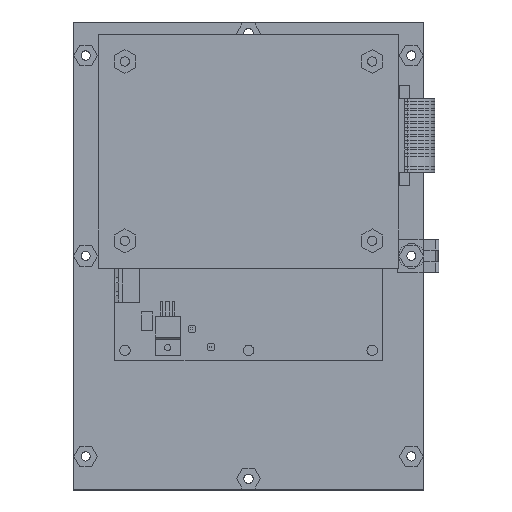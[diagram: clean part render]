
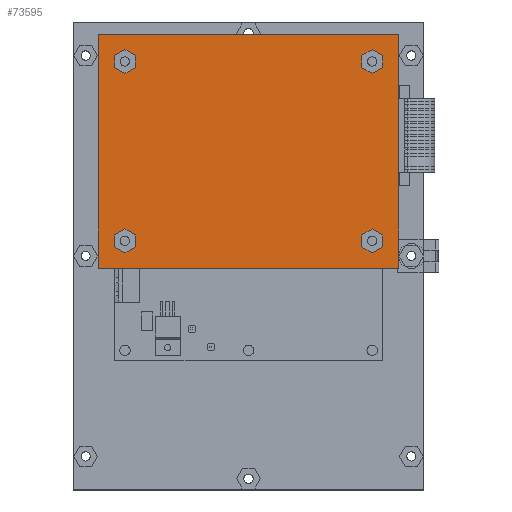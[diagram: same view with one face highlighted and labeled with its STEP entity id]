
A CAD part, top view. The second image highlights one B-rep face of the part: STEP entity #73595.
In plain terms, the highlighted planar face has unit normal (0, 0, 1).
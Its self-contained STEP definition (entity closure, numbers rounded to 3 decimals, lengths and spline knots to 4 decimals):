
#43=FACE_BOUND('',#7721,.T.);
#44=FACE_BOUND('',#7722,.T.);
#45=FACE_BOUND('',#7723,.T.);
#46=FACE_BOUND('',#7724,.T.);
#958=CIRCLE('',#78319,0.069);
#960=CIRCLE('',#78322,0.069);
#962=CIRCLE('',#78325,0.069);
#964=CIRCLE('',#78328,0.069);
#3779=FACE_OUTER_BOUND('',#7720,.T.);
#7720=EDGE_LOOP('',(#55278,#55279,#55280,#55281));
#7721=EDGE_LOOP('',(#55282));
#7722=EDGE_LOOP('',(#55283));
#7723=EDGE_LOOP('',(#55284));
#7724=EDGE_LOOP('',(#55285));
#13750=LINE('',#108937,#23322);
#13753=LINE('',#108943,#23325);
#13756=LINE('',#108949,#23328);
#13759=LINE('',#108953,#23331);
#23322=VECTOR('',#88769,0.3937);
#23325=VECTOR('',#88774,0.3937);
#23328=VECTOR('',#88779,0.3937);
#23331=VECTOR('',#88784,0.3937);
#32212=VERTEX_POINT('',#108907);
#32214=VERTEX_POINT('',#108913);
#32216=VERTEX_POINT('',#108919);
#32218=VERTEX_POINT('',#108925);
#32222=VERTEX_POINT('',#108934);
#32223=VERTEX_POINT('',#108936);
#32225=VERTEX_POINT('',#108942);
#32227=VERTEX_POINT('',#108948);
#40626=EDGE_CURVE('',#32212,#32212,#958,.T.);
#40629=EDGE_CURVE('',#32214,#32214,#960,.T.);
#40632=EDGE_CURVE('',#32216,#32216,#962,.T.);
#40635=EDGE_CURVE('',#32218,#32218,#964,.T.);
#40640=EDGE_CURVE('',#32223,#32222,#13750,.T.);
#40643=EDGE_CURVE('',#32225,#32223,#13753,.T.);
#40646=EDGE_CURVE('',#32227,#32225,#13756,.T.);
#40649=EDGE_CURVE('',#32222,#32227,#13759,.T.);
#55278=ORIENTED_EDGE('',*,*,#40649,.T.);
#55279=ORIENTED_EDGE('',*,*,#40646,.T.);
#55280=ORIENTED_EDGE('',*,*,#40643,.T.);
#55281=ORIENTED_EDGE('',*,*,#40640,.T.);
#55282=ORIENTED_EDGE('',*,*,#40626,.T.);
#55283=ORIENTED_EDGE('',*,*,#40629,.T.);
#55284=ORIENTED_EDGE('',*,*,#40632,.T.);
#55285=ORIENTED_EDGE('',*,*,#40635,.T.);
#69916=PLANE('',#78334);
#73595=ADVANCED_FACE('',(#3779,#43,#44,#45,#46),#69916,.T.);
#78319=AXIS2_PLACEMENT_3D('',#108908,#88739,#88740);
#78322=AXIS2_PLACEMENT_3D('',#108914,#88746,#88747);
#78325=AXIS2_PLACEMENT_3D('',#108920,#88753,#88754);
#78328=AXIS2_PLACEMENT_3D('',#108926,#88760,#88761);
#78334=AXIS2_PLACEMENT_3D('',#108954,#88785,#88786);
#88739=DIRECTION('center_axis',(0.,0.,-1.));
#88740=DIRECTION('ref_axis',(0.814,0.581,0.));
#88746=DIRECTION('center_axis',(0.,0.,
-1.));
#88747=DIRECTION('ref_axis',(0.814,0.581,0.));
#88753=DIRECTION('center_axis',(0.,0.,
-1.));
#88754=DIRECTION('ref_axis',(0.814,0.581,0.));
#88760=DIRECTION('center_axis',(0.,0.,-1.));
#88761=DIRECTION('ref_axis',(0.814,0.581,0.));
#88769=DIRECTION('',(0.,1.,0.));
#88774=DIRECTION('',(1.,0.,0.));
#88779=DIRECTION('',(0.,-1.,0.));
#88784=DIRECTION('',(-1.,0.,0.));
#88785=DIRECTION('center_axis',(0.,0.,1.));
#88786=DIRECTION('ref_axis',(1.,0.,0.));
#108907=CARTESIAN_POINT('',(2.8789,6.2699,1.3762));
#108908=CARTESIAN_POINT('Origin',(2.9479,6.2699,1.3762));
#108913=CARTESIAN_POINT('',(6.5789,8.9559,1.3762));
#108914=CARTESIAN_POINT('Origin',(6.6479,8.9559,1.3762));
#108919=CARTESIAN_POINT('',(6.5789,6.2699,1.3762));
#108920=CARTESIAN_POINT('Origin',(6.6479,6.2699,1.3762));
#108925=CARTESIAN_POINT('',(2.8789,8.9559,1.3762));
#108926=CARTESIAN_POINT('Origin',(2.9479,8.9559,1.3762));
#108934=CARTESIAN_POINT('',(7.0479,9.3629,1.3762));
#108936=CARTESIAN_POINT('',(7.0479,5.8629,1.3762));
#108937=CARTESIAN_POINT('',(7.0479,5.8629,1.3762));
#108942=CARTESIAN_POINT('',(2.5479,5.8629,1.3762));
#108943=CARTESIAN_POINT('',(2.5479,5.8629,1.3762));
#108948=CARTESIAN_POINT('',(2.5479,9.3629,1.3762));
#108949=CARTESIAN_POINT('',(2.5479,9.3629,1.3762));
#108953=CARTESIAN_POINT('',(7.0479,9.3629,1.3762));
#108954=CARTESIAN_POINT('Origin',(4.7979,5.8629,1.3762));
